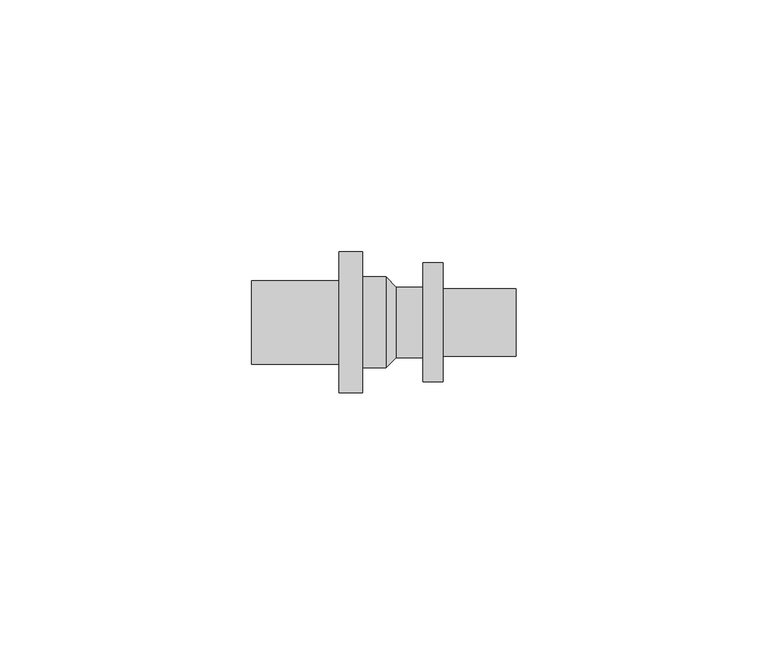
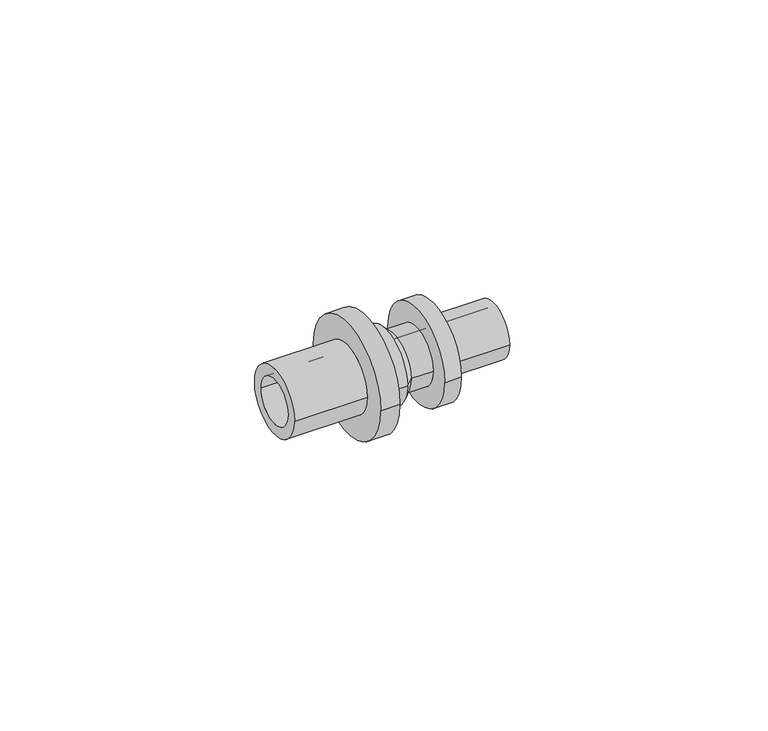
"""IFC4 building model written with IfcOpenShell, lengths in millimetres: pipe fitting geometry, RAUTITAN_Transition_PX : RTI PX Tr DE."""

from ifc_helpers import new_model, si_unit, frame, origin, place, context, project, spatial, polyline, circle_curve, source, transform, mapped, element, save
from ifc_brep_helpers import plane_surface, cylinder_surface, revolved_surface, advanced_brep


def pipe_fitting_9065546d(model_context):
    return source(origin(), model_context, "Body", "AdvancedBrep", [
        advanced_brep(
        [(-27.7, 5.6, 0.0), (-27.7, -5.6, 0.0), (-0.55, -5.6, 0.0), (-0.55, 5.6, 0.0), (-1.0, 9.0, 0.0), (-1.0, -9.0, 0.0), (-5.7, -9.0, 0.0), (-5.7, 9.0, 0.0), (1.0, 7.0, 0.0), (1.0, -7.0, 0.0), (6.3, 7.0, 0.0), (6.3, -7.0, 0.0), (10.3, 11.8, 0.0), (10.3, -11.8, 0.0), (6.3, -11.8, 0.0), (6.3, 11.8, 0.0), (24.8, 6.7, 0.0), (24.8, -6.7, 0.0), (10.3, -6.7, 0.0), (10.3, 6.7, 0.0), (0.55, 4.5, 0.0), (0.55, -4.5, 0.0), (24.8, -4.5, 0.0), (24.8, 4.5, 0.0), (-5.7, 14.0, 0.0), (-5.7, -14.0, 0.0), (-10.3, 8.3, 0.0), (-10.3, -8.3, 0.0), (-27.7, -8.3, 0.0), (-27.7, 8.3, 0.0), (-10.3, -14.0, 0.0), (-10.3, 14.0, 0.0)],
        [
            (0, 1, circle_curve(frame((-27.7, 0.0, 0.0), z_axis=(-1.0, 0.0, 0.0), x_axis=(0.0, -1.0, 0.0)), 5.6)),
            (1, 2),
            (2, 3, circle_curve(frame((-0.55, 0.0, 0.0), z_axis=(1.0, 0.0, 0.0), x_axis=(0.0, -1.0, 0.0)), 5.6)),
            (3, 0),
            (4, 5, circle_curve(frame((-1.0, 0.0, 0.0), z_axis=(-1.0, 0.0, 0.0), x_axis=(0.0, -1.0, 0.0)), 9.0)),
            (5, 6),
            (6, 7, circle_curve(frame((-5.7, 0.0, 0.0), z_axis=(1.0, 0.0, 0.0), x_axis=(0.0, -1.0, 0.0)), 9.0)),
            (7, 4),
            (8, 9, circle_curve(frame((1.0, 0.0, 0.0), z_axis=(-1.0, 0.0, 0.0), x_axis=(0.0, -1.0, 0.0)), 7.0)),
            (9, 5),
            (4, 8),
            (10, 11, circle_curve(frame((6.3, 0.0, 0.0), z_axis=(-1.0, 0.0, 0.0), x_axis=(0.0, -1.0, 0.0)), 7.0)),
            (11, 9),
            (8, 10),
            (12, 13, circle_curve(frame((10.3, 0.0, 0.0), z_axis=(-1.0, 0.0, 0.0), x_axis=(0.0, -1.0, 0.0)), 11.8)),
            (13, 14),
            (14, 15, circle_curve(frame((6.3, 0.0, 0.0), z_axis=(1.0, 0.0, 0.0), x_axis=(0.0, -1.0, 0.0)), 11.8)),
            (15, 12),
            (16, 17, circle_curve(frame((24.8, 0.0, 0.0), z_axis=(-1.0, 0.0, 0.0), x_axis=(0.0, -1.0, 0.0)), 6.7)),
            (17, 18),
            (18, 19, circle_curve(frame((10.3, 0.0, 0.0), z_axis=(1.0, 0.0, 0.0), x_axis=(0.0, -1.0, 0.0)), 6.7)),
            (19, 16),
            (20, 21, circle_curve(frame((0.55, 0.0, 0.0), z_axis=(-1.0, 0.0, 0.0), x_axis=(0.0, -1.0, 0.0)), 4.5)),
            (21, 22),
            (22, 23, circle_curve(frame((24.8, 0.0, 0.0), z_axis=(1.0, 0.0, 0.0), x_axis=(0.0, -1.0, 0.0)), 4.5)),
            (23, 20),
            (2, 21),
            (20, 3),
            (1, 0, circle_curve(frame((-27.7, 0.0, 0.0), z_axis=(-1.0, 0.0, 0.0), x_axis=(0.0, 1.0, 0.0)), 5.6)),
            (3, 2, circle_curve(frame((-0.55, 0.0, 0.0), z_axis=(1.0, 0.0, 0.0), x_axis=(0.0, 1.0, 0.0)), 5.6)),
            (24, 25, circle_curve(frame((-5.7, 0.0, 0.0), z_axis=(1.0, 0.0, 0.0), x_axis=(0.0, 1.0, 0.0)), 14.0)),
            (25, 24, circle_curve(frame((-5.7, 0.0, 0.0), z_axis=(1.0, 0.0, 0.0), x_axis=(0.0, -1.0, 0.0)), 14.0)),
            (6, 7, circle_curve(frame((-5.7, 0.0, 0.0), z_axis=(-1.0, 0.0, 0.0), x_axis=(0.0, 1.0, 0.0)), 9.0)),
            (5, 4, circle_curve(frame((-1.0, 0.0, 0.0), z_axis=(-1.0, 0.0, 0.0), x_axis=(0.0, 1.0, 0.0)), 9.0)),
            (9, 8, circle_curve(frame((1.0, 0.0, 0.0), z_axis=(-1.0, 0.0, 0.0), x_axis=(0.0, 1.0, 0.0)), 7.0)),
            (11, 10, circle_curve(frame((6.3, 0.0, 0.0), z_axis=(-1.0, 0.0, 0.0), x_axis=(0.0, 1.0, 0.0)), 7.0)),
            (14, 15, circle_curve(frame((6.3, 0.0, 0.0), z_axis=(-1.0, 0.0, 0.0), x_axis=(0.0, 1.0, 0.0)), 11.8)),
            (13, 12, circle_curve(frame((10.3, 0.0, 0.0), z_axis=(-1.0, 0.0, 0.0), x_axis=(0.0, 1.0, 0.0)), 11.8)),
            (18, 19, circle_curve(frame((10.3, 0.0, 0.0), z_axis=(-1.0, 0.0, 0.0), x_axis=(0.0, 1.0, 0.0)), 6.7)),
            (17, 16, circle_curve(frame((24.8, 0.0, 0.0), z_axis=(-1.0, 0.0, 0.0), x_axis=(0.0, 1.0, 0.0)), 6.7)),
            (22, 23, circle_curve(frame((24.8, 0.0, 0.0), z_axis=(-1.0, 0.0, 0.0), x_axis=(0.0, 1.0, 0.0)), 4.5)),
            (21, 20, circle_curve(frame((0.55, 0.0, 0.0), z_axis=(-1.0, 0.0, 0.0), x_axis=(0.0, 1.0, 0.0)), 4.5)),
            (26, 27, circle_curve(frame((-10.3, 0.0, 0.0), z_axis=(-1.0, 0.0, 0.0), x_axis=(0.0, -1.0, 0.0)), 8.3)),
            (27, 28),
            (28, 29, circle_curve(frame((-27.7, 0.0, 0.0), z_axis=(1.0, 0.0, 0.0), x_axis=(0.0, -1.0, 0.0)), 8.3)),
            (29, 26),
            (25, 30),
            (30, 31, circle_curve(frame((-10.3, 0.0, 0.0), z_axis=(1.0, 0.0, 0.0), x_axis=(0.0, -1.0, 0.0)), 14.0)),
            (31, 24),
            (28, 29, circle_curve(frame((-27.7, 0.0, 0.0), z_axis=(-1.0, 0.0, 0.0), x_axis=(0.0, 1.0, 0.0)), 8.3)),
            (27, 26, circle_curve(frame((-10.3, 0.0, 0.0), z_axis=(-1.0, 0.0, 0.0), x_axis=(0.0, 1.0, 0.0)), 8.3)),
            (30, 31, circle_curve(frame((-10.3, 0.0, 0.0), z_axis=(-1.0, 0.0, 0.0), x_axis=(0.0, 1.0, 0.0)), 14.0)),
        ],
        [
            revolved_surface(polyline([(-0.55, -5.6, 0.0), (-27.7, -5.6, 0.0)]), (0.0, 0.0, 0.0), (1.0, 0.0, 0.0)),
            cylinder_surface(frame((0.0, 0.0, 0.0), z_axis=(1.0, 0.0, 0.0), x_axis=(0.0, -1.0, 0.0)), 9.0),
            revolved_surface(polyline([(-1.0, -9.0, 0.0), (1.0, -7.0, 0.0)]), (0.0, 0.0, 0.0), (1.0, 0.0, 0.0)),
            cylinder_surface(frame((0.0, 0.0, 0.0), z_axis=(1.0, 0.0, 0.0), x_axis=(0.0, -1.0, 0.0)), 7.0),
            cylinder_surface(frame((0.0, 0.0, 0.0), z_axis=(1.0, 0.0, 0.0), x_axis=(0.0, -1.0, 0.0)), 11.8),
            cylinder_surface(frame((0.0, 0.0, 0.0), z_axis=(1.0, 0.0, 0.0), x_axis=(0.0, -1.0, 0.0)), 6.7),
            revolved_surface(polyline([(24.8, -4.5, 0.0), (0.55, -4.5, 0.0)]), (0.0, 0.0, 0.0), (1.0, 0.0, 0.0)),
            revolved_surface(polyline([(0.55, -4.5, 0.0), (-0.55, -5.6, 0.0)]), (0.0, 0.0, 0.0), (1.0, 0.0, 0.0)),
            revolved_surface(polyline([(-0.55, 5.6, 0.0), (-27.7, 5.6, 0.0)]), (0.0, 0.0, 0.0), (1.0, 0.0, 0.0)),
            plane_surface(frame((-5.7, 0.0, 0.0), z_axis=(1.0, 0.0, 0.0), x_axis=(0.0, 1.0, 0.0))),
            cylinder_surface(frame((0.0, 0.0, 0.0), z_axis=(1.0, 0.0, 0.0), x_axis=(0.0, 1.0, 0.0)), 9.0),
            revolved_surface(polyline([(-1.0, 9.0, 0.0), (1.0, 7.0, 0.0)]), (0.0, 0.0, 0.0), (1.0, 0.0, 0.0)),
            cylinder_surface(frame((0.0, 0.0, 0.0), z_axis=(1.0, 0.0, 0.0), x_axis=(0.0, 1.0, 0.0)), 7.0),
            plane_surface(frame((6.3, 0.0, 0.0), z_axis=(-1.0, 0.0, 0.0), x_axis=(0.0, 1.0, 0.0))),
            cylinder_surface(frame((0.0, 0.0, 0.0), z_axis=(1.0, 0.0, 0.0), x_axis=(0.0, 1.0, 0.0)), 11.8),
            plane_surface(frame((10.3, 0.0, 0.0), z_axis=(1.0, 0.0, 0.0), x_axis=(0.0, 1.0, 0.0))),
            cylinder_surface(frame((0.0, 0.0, 0.0), z_axis=(1.0, 0.0, 0.0), x_axis=(0.0, 1.0, 0.0)), 6.7),
            plane_surface(frame((24.8, 0.0, 0.0), z_axis=(1.0, 0.0, 0.0), x_axis=(0.0, 1.0, 0.0))),
            revolved_surface(polyline([(24.8, 4.5, 0.0), (0.55, 4.5, 0.0)]), (0.0, 0.0, 0.0), (1.0, 0.0, 0.0)),
            revolved_surface(polyline([(0.55, 4.5, 0.0), (-0.55, 5.6, 0.0)]), (0.0, 0.0, 0.0), (1.0, 0.0, 0.0)),
            cylinder_surface(frame((0.0, 0.0, 0.0), z_axis=(1.0, 0.0, 0.0), x_axis=(0.0, -1.0, 0.0)), 8.3),
            cylinder_surface(frame((0.0, 0.0, 0.0), z_axis=(1.0, 0.0, 0.0), x_axis=(0.0, -1.0, 0.0)), 14.0),
            plane_surface(frame((-27.7, 0.0, 0.0), z_axis=(-1.0, 0.0, 0.0), x_axis=(0.0, 1.0, 0.0))),
            cylinder_surface(frame((0.0, 0.0, 0.0), z_axis=(1.0, 0.0, 0.0), x_axis=(0.0, 1.0, 0.0)), 8.3),
            plane_surface(frame((-10.3, 0.0, 0.0), z_axis=(-1.0, 0.0, 0.0), x_axis=(0.0, 1.0, 0.0))),
            cylinder_surface(frame((0.0, 0.0, 0.0), z_axis=(1.0, 0.0, 0.0), x_axis=(0.0, 1.0, 0.0)), 14.0),
        ],
        [
            (0, [[1, 2, 3, 4]]),
            (1, [[5, 6, 7, 8]]),
            (2, [[9, 10, -5, 11]]),
            (3, [[12, 13, -9, 14]]),
            (4, [[15, 16, 17, 18]]),
            (5, [[19, 20, 21, 22]]),
            (6, [[23, 24, 25, 26]]),
            (7, [[-3, 27, -23, 28]]),
            (8, [[29, -4, 30, -2]]),
            (9, [[31, 32], [33, -7]]),
            (10, [[34, -8, -33, -6]]),
            (11, [[35, -11, -34, -10]]),
            (12, [[36, -14, -35, -13]]),
            (13, [[37, -17], [-36, -12]]),
            (14, [[38, -18, -37, -16]]),
            (15, [[-38, -15], [39, -21]]),
            (16, [[40, -22, -39, -20]]),
            (17, [[-40, -19], [41, -25]]),
            (18, [[42, -26, -41, -24]]),
            (19, [[-30, -28, -42, -27]]),
            (20, [[43, 44, 45, 46]]),
            (21, [[-32, 47, 48, 49]]),
            (22, [[50, -45], [-29, -1]]),
            (23, [[51, -46, -50, -44]]),
            (24, [[52, -48], [-51, -43]]),
            (25, [[-31, -49, -52, -47]]),
        ],
    ),
    ])


if __name__ == "__main__":
    model = new_model("IFC4")
    model_context = context("Model", 3, world=origin())
    ifc_project = project(units=[si_unit("LENGTHUNIT", "METRE", prefix="MILLI")], contexts=[model_context])
    site = spatial("IfcSite", under=ifc_project)
    building = spatial("IfcBuilding", under=site)
    placement = place(None, origin())
    pipe_fitting_shape = pipe_fitting_9065546d(model_context)
    element("IfcPipeFitting", 1, ObjectType="RAUTITAN_Transition_PX : RTI PX Tr DE", at=placement, inside=building, context=model_context, shape_type="MappedRepresentation", body=[
        mapped(pipe_fitting_shape, transform((0.0, 0.0, 0.0), x_axis=(1.0, 0.0, 0.0), y_axis=(0.0, 1.0, 0.0), z_axis=(0.0, 0.0, 1.0))),
    ])
    save(model, "model.ifc")
